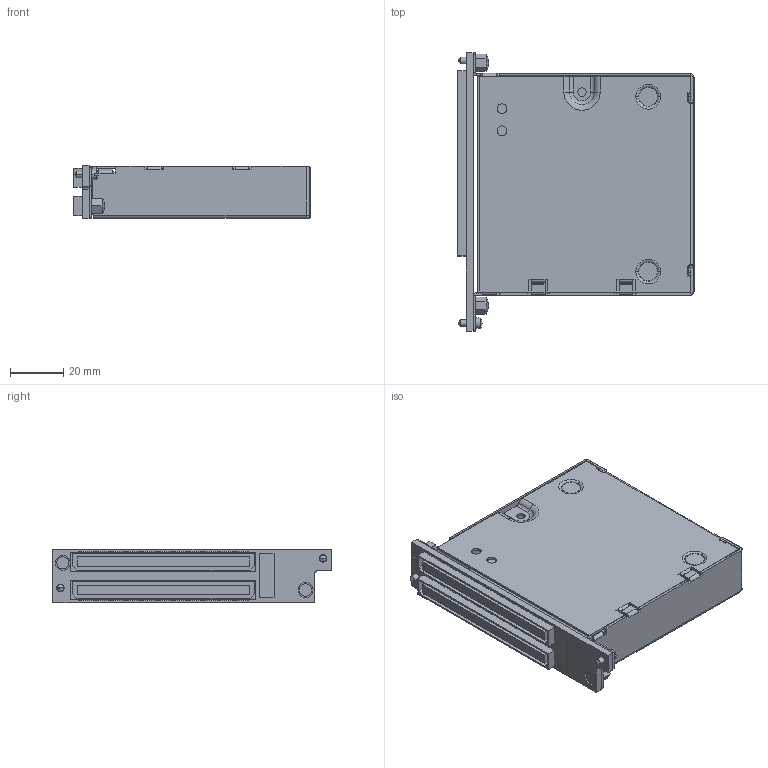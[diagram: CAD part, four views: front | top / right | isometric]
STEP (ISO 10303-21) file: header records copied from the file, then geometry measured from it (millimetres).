
FILE_DESCRIPTION((''),'2;1');
FILE_NAME('CU_TB-2641','2011-08-12T',('jjorden'),(''),'PRO/ENGINEER BY PARAMETRIC TECHNOLOGY CORPORATION, 2010230','PRO/ENGINEER BY PARAMETRIC TECHNOLOGY CORPORATION, 2010230','');
FILE_SCHEMA(('CONFIG_CONTROL_DESIGN'));
Length unit declared in the file: inch
Products named in the file (1): CU_TB-2641
Bounding box: 88.62 x 104.04 x 20.02 mm (x, y, z)
Volume: 31587.9 mm3; surface area: 44800.9 mm2
Topology: 1 solids, 1 shells, 1989 faces, 5603 edges, 3618 vertices
Faces by surface type: plane 1744, cylinder 153, cone 48, torus 20, bspline 16, sphere 4, revolution 4
Entity records: 64059 total; most frequent: CARTESIAN_POINT 12580, ORIENTED_EDGE 11174, DIRECTION 9883, EDGE_CURVE 5587, VECTOR 5033, LINE 5033, VERTEX_POINT 3656, AXIS2_PLACEMENT_3D 2423
